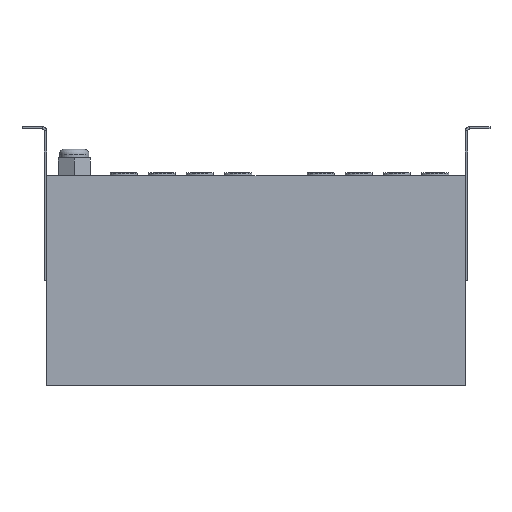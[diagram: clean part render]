
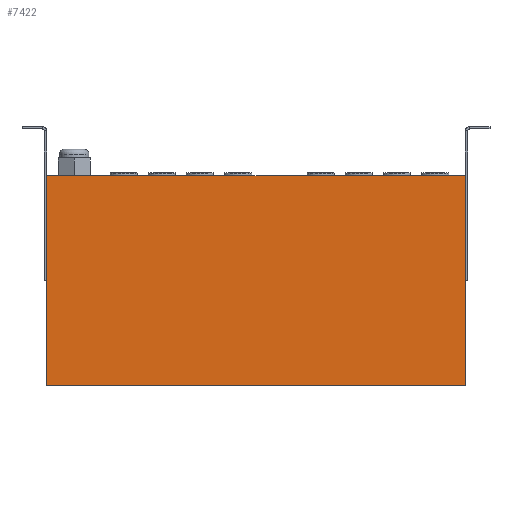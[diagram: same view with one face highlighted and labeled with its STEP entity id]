
A CAD part, front view. The second image highlights one B-rep face of the part: STEP entity #7422.
In plain terms, the highlighted planar face has unit normal (0, -1, 0).
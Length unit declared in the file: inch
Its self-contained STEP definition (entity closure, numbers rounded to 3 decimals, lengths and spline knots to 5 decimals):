
#74 = DIRECTION ( 'NONE',  ( -1., 0., 0. ) ) ;
#75 = VECTOR ( 'NONE', #74, 39.37008 ) ;
#76 = CARTESIAN_POINT ( 'NONE',  ( -8.5, -0.85, -4.25 ) ) ;
#77 = LINE ( 'NONE', #76, #75 ) ;
#153 = FACE_OUTER_BOUND ( 'NONE', #7341, .T. ) ;
#212 = DIRECTION ( 'NONE',  ( 0., 0., -1. ) ) ;
#213 = DIRECTION ( 'NONE',  ( 0., -1., 0. ) ) ;
#214 = CARTESIAN_POINT ( 'NONE',  ( -8.5, -0.85, 4.25 ) ) ;
#215 = AXIS2_PLACEMENT_3D ( 'NONE', #214, #213, #212 ) ;
#216 = PLANE ( 'NONE',  #215 ) ;
#2565 = CARTESIAN_POINT ( 'NONE',  ( 8.5, -0.85, 4.25 ) ) ;
#2566 = CARTESIAN_POINT ( 'NONE',  ( -8.5, -0.85, 4.25 ) ) ;
#2567 = DIRECTION ( 'NONE',  ( 1., 0., 0. ) ) ;
#2568 = VECTOR ( 'NONE', #2567, 39.37008 ) ;
#2569 = CARTESIAN_POINT ( 'NONE',  ( -8.5, -0.85, 4.25 ) ) ;
#2570 = LINE ( 'NONE', #2569, #2568 ) ;
#2579 = CARTESIAN_POINT ( 'NONE',  ( -8.5, -0.85, -4.25 ) ) ;
#2580 = DIRECTION ( 'NONE',  ( 0., 0., 1. ) ) ;
#2581 = VECTOR ( 'NONE', #2580, 39.37008 ) ;
#2582 = CARTESIAN_POINT ( 'NONE',  ( -8.5, -0.85, 4.25 ) ) ;
#2583 = LINE ( 'NONE', #2582, #2581 ) ;
#7316 = EDGE_CURVE ( 'NONE', #8604, #7317, #14427, .T. ) ;
#7317 = VERTEX_POINT ( 'NONE', #14423 ) ;
#7341 = EDGE_LOOP ( 'NONE', ( #7342, #7343, #7344, #7403 ) ) ;
#7342 = ORIENTED_EDGE ( 'NONE', *, *, #8628, .F. ) ;
#7343 = ORIENTED_EDGE ( 'NONE', *, *, #7352, .F. ) ;
#7344 = ORIENTED_EDGE ( 'NONE', *, *, #7316, .F. ) ;
#7352 = EDGE_CURVE ( 'NONE', #7317, #8629, #77, .T. ) ;
#7403 = ORIENTED_EDGE ( 'NONE', *, *, #8602, .F. ) ;
#7422 = ADVANCED_FACE ( 'NONE', ( #153 ), #216, .T. ) ;
#8602 = EDGE_CURVE ( 'NONE', #8603, #8604, #2570, .T. ) ;
#8603 = VERTEX_POINT ( 'NONE', #2566 ) ;
#8604 = VERTEX_POINT ( 'NONE', #2565 ) ;
#8628 = EDGE_CURVE ( 'NONE', #8629, #8603, #2583, .T. ) ;
#8629 = VERTEX_POINT ( 'NONE', #2579 ) ;
#14423 = CARTESIAN_POINT ( 'NONE',  ( 8.5, -0.85, -4.25 ) ) ;
#14424 = DIRECTION ( 'NONE',  ( 0., 0., -1. ) ) ;
#14425 = VECTOR ( 'NONE', #14424, 39.37008 ) ;
#14426 = CARTESIAN_POINT ( 'NONE',  ( 8.5, -0.85, 4.25 ) ) ;
#14427 = LINE ( 'NONE', #14426, #14425 ) ;
